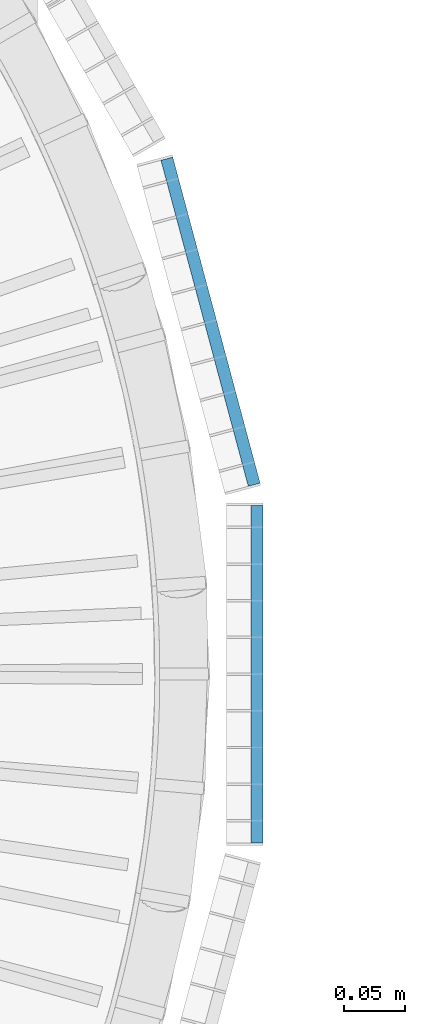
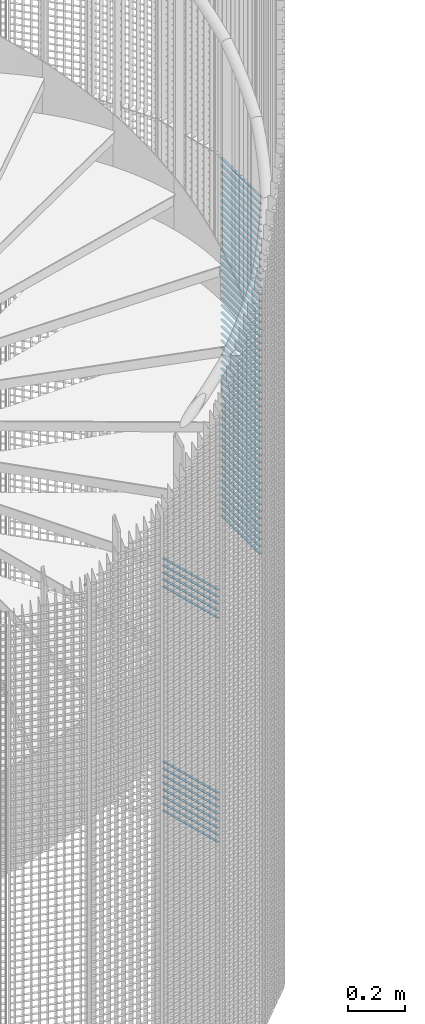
# One storey, part 300 of 1148: 65 beams, 2 elements without a shape of their own.
"""IFC2X3 building model written with IfcOpenShell, lengths in millimetres."""

from ifc_helpers import new_model, si_unit, frame, origin_with_axes, origin_2d_with_axis, place, context, subcontext, project, spatial, rectangle, extrude, material, type_object, element, aggregate, save


model = new_model("IFC2X3")

# Units and contexts
model_context = context("Model", 3, precision=1e-05, world=origin_with_axes())
body_context = subcontext(model_context, "Body", "Model", "MODEL_VIEW")
ifc_project = project(units=[si_unit("LENGTHUNIT", "METRE", prefix="MILLI"), si_unit("AREAUNIT", "SQUARE_METRE"), si_unit("VOLUMEUNIT", "CUBIC_METRE"), si_unit("MASSUNIT", "GRAM", prefix="KILO"), si_unit("TIMEUNIT", "SECOND"), si_unit("PLANEANGLEUNIT", "RADIAN"), si_unit("SOLIDANGLEUNIT", "STERADIAN"), si_unit("THERMODYNAMICTEMPERATUREUNIT", "DEGREE_CELSIUS"), si_unit("LUMINOUSINTENSITYUNIT", "LUMEN")], contexts=[model_context])

# Site, building, storey
site_placement = place(None, origin_with_axes())
site = spatial("IfcSite", under=ifc_project, at=site_placement, Name="Undefined", CompositionType="ELEMENT")
building_placement = place(site_placement, origin_with_axes())
building = spatial("IfcBuilding", under=site, at=building_placement, Name="Undefined", CompositionType="ELEMENT")
storey_placement = place(building_placement, origin_with_axes())
storey = spatial("IfcBuildingStorey", under=building, at=storey_placement, Name="Undefined", CompositionType="ELEMENT", Elevation=0.0)

# Assembly, beams
assembly_1_placement = place(storey_placement, origin_with_axes())
assembly_1 = element("IfcElementAssembly", 1, at=assembly_1_placement, inside=storey, Name="BORDURE", AssemblyPlace="NOTDEFINED", PredefinedType="NOTDEFINED")
ifc_material = material(Name="STEEL/S235JR")
beam_type = type_object("IfcBeamType", Name="PL2*10", PredefinedType="NOTDEFINED")
beam_1_placement = place(assembly_1_placement, frame((1111.25508286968, 154.895926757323, 989.999999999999), z_axis=(0.965925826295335, 0.258819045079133, 0.0), x_axis=(-0.258819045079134, 0.965925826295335, 0.0)))
beam_1 = element("IfcBeam", 2, at=beam_1_placement, type_object=beam_type, material=ifc_material, Name="ENTRETOISE", context=body_context, shape_type="SweptSolid", body=[
    extrude(rectangle(XDim=2.0, YDim=10.0, at=origin_2d_with_axis()), frame((275.999999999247, 9.09494701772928e-13, 1.53210777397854e-14), z_axis=(-1.0, 0.0, 0.0), x_axis=(0.0, -1.0, 0.0)), (0.0, 0.0, 1.0), 276.0),
])
beam_2_placement = place(assembly_1_placement, frame((1111.25508286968, 154.895926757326, 239.999999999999), z_axis=(0.965925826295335, 0.258819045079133, 0.0), x_axis=(-0.258819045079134, 0.965925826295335, 0.0)))
beam_2 = element("IfcBeam", 3, at=beam_2_placement, type_object=beam_type, material=ifc_material, Name="ENTRETOISE", context=body_context, shape_type="SweptSolid", body=[
    extrude(rectangle(XDim=2.0, YDim=10.0, at=origin_2d_with_axis()), frame((275.999999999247, 9.09494701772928e-13, 1.53210777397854e-14), z_axis=(-1.0, 0.0, 0.0), x_axis=(0.0, -1.0, 0.0)), (0.0, 0.0, 1.0), 276.0),
])
beam_3_placement = place(assembly_1_placement, frame((1111.25508286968, 154.895926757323, 1020.0), z_axis=(0.965925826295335, 0.258819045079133, 0.0), x_axis=(-0.258819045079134, 0.965925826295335, 0.0)))
beam_3 = element("IfcBeam", 4, at=beam_3_placement, type_object=beam_type, material=ifc_material, Name="ENTRETOISE", context=body_context, shape_type="SweptSolid", body=[
    extrude(rectangle(XDim=2.0, YDim=10.0, at=origin_2d_with_axis()), frame((275.999999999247, 9.09494701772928e-13, 1.53210777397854e-14), z_axis=(-1.0, 0.0, 0.0), x_axis=(0.0, -1.0, 0.0)), (0.0, 0.0, 1.0), 276.0),
])
beam_4_placement = place(assembly_1_placement, frame((1111.25508286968, 154.895926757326, 209.999999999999), z_axis=(0.965925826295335, 0.258819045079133, 0.0), x_axis=(-0.258819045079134, 0.965925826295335, 0.0)))
beam_4 = element("IfcBeam", 5, at=beam_4_placement, type_object=beam_type, material=ifc_material, Name="ENTRETOISE", context=body_context, shape_type="SweptSolid", body=[
    extrude(rectangle(XDim=2.0, YDim=10.0, at=origin_2d_with_axis()), frame((275.999999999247, 9.09494701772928e-13, 1.53210777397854e-14), z_axis=(-1.0, 0.0, 0.0), x_axis=(0.0, -1.0, 0.0)), (0.0, 0.0, 1.0), 276.0),
])
beam_5_placement = place(assembly_1_placement, frame((1111.25508286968, 154.895926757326, 179.999999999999), z_axis=(0.965925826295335, 0.258819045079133, 0.0), x_axis=(-0.258819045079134, 0.965925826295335, 0.0)))
beam_5 = element("IfcBeam", 6, at=beam_5_placement, type_object=beam_type, material=ifc_material, Name="ENTRETOISE", context=body_context, shape_type="SweptSolid", body=[
    extrude(rectangle(XDim=2.0, YDim=10.0, at=origin_2d_with_axis()), frame((275.999999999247, 9.09494701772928e-13, 1.53210777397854e-14), z_axis=(-1.0, 0.0, 0.0), x_axis=(0.0, -1.0, 0.0)), (0.0, 0.0, 1.0), 276.0),
])
beam_6_placement = place(assembly_1_placement, frame((1111.25508286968, 154.895926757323, 1050.0), z_axis=(0.965925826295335, 0.258819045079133, 0.0), x_axis=(-0.258819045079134, 0.965925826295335, 0.0)))
beam_6 = element("IfcBeam", 7, at=beam_6_placement, type_object=beam_type, material=ifc_material, Name="ENTRETOISE", context=body_context, shape_type="SweptSolid", body=[
    extrude(rectangle(XDim=2.0, YDim=10.0, at=origin_2d_with_axis()), frame((275.999999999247, 9.09494701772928e-13, 1.53210777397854e-14), z_axis=(-1.0, 0.0, 0.0), x_axis=(0.0, -1.0, 0.0)), (0.0, 0.0, 1.0), 276.0),
])
beam_7_placement = place(assembly_1_placement, frame((1111.25508286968, 154.895926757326, 149.999999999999), z_axis=(0.965925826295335, 0.258819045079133, 0.0), x_axis=(-0.258819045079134, 0.965925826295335, 0.0)))
beam_7 = element("IfcBeam", 8, at=beam_7_placement, type_object=beam_type, material=ifc_material, Name="ENTRETOISE", context=body_context, shape_type="SweptSolid", body=[
    extrude(rectangle(XDim=2.0, YDim=10.0, at=origin_2d_with_axis()), frame((275.999999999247, 9.09494701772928e-13, 1.53210777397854e-14), z_axis=(-1.0, 0.0, 0.0), x_axis=(0.0, -1.0, 0.0)), (0.0, 0.0, 1.0), 276.0),
])
beam_8_placement = place(assembly_1_placement, frame((1111.25508286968, 154.895926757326, 119.999999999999), z_axis=(0.965925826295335, 0.258819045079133, 0.0), x_axis=(-0.258819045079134, 0.965925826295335, 0.0)))
beam_8 = element("IfcBeam", 9, at=beam_8_placement, type_object=beam_type, material=ifc_material, Name="ENTRETOISE", context=body_context, shape_type="SweptSolid", body=[
    extrude(rectangle(XDim=2.0, YDim=10.0, at=origin_2d_with_axis()), frame((275.999999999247, 9.09494701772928e-13, 1.53210777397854e-14), z_axis=(-1.0, 0.0, 0.0), x_axis=(0.0, -1.0, 0.0)), (0.0, 0.0, 1.0), 276.0),
])
beam_9_placement = place(assembly_1_placement, frame((1111.25508286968, 154.895926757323, 1080.0), z_axis=(0.965925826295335, 0.258819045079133, 0.0), x_axis=(-0.258819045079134, 0.965925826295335, 0.0)))
beam_9 = element("IfcBeam", 10, at=beam_9_placement, type_object=beam_type, material=ifc_material, Name="ENTRETOISE", context=body_context, shape_type="SweptSolid", body=[
    extrude(rectangle(XDim=2.0, YDim=10.0, at=origin_2d_with_axis()), frame((275.999999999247, 9.09494701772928e-13, 1.53210777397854e-14), z_axis=(-1.0, 0.0, 0.0), x_axis=(0.0, -1.0, 0.0)), (0.0, 0.0, 1.0), 276.0),
])
beam_10_placement = place(assembly_1_placement, frame((1111.25508286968, 154.895926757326, 89.9999999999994), z_axis=(0.965925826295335, 0.258819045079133, 0.0), x_axis=(-0.258819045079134, 0.965925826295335, 0.0)))
beam_10 = element("IfcBeam", 11, at=beam_10_placement, type_object=beam_type, material=ifc_material, Name="ENTRETOISE", context=body_context, shape_type="SweptSolid", body=[
    extrude(rectangle(XDim=2.0, YDim=10.0, at=origin_2d_with_axis()), frame((275.999999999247, 9.09494701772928e-13, 1.53210777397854e-14), z_axis=(-1.0, 0.0, 0.0), x_axis=(0.0, -1.0, 0.0)), (0.0, 0.0, 1.0), 276.0),
])
beam_11_placement = place(assembly_1_placement, frame((1111.25508286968, 154.895926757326, 59.9999999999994), z_axis=(0.965925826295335, 0.258819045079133, 0.0), x_axis=(-0.258819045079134, 0.965925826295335, 0.0)))
beam_11 = element("IfcBeam", 12, at=beam_11_placement, type_object=beam_type, material=ifc_material, Name="ENTRETOISE", context=body_context, shape_type="SweptSolid", body=[
    extrude(rectangle(XDim=2.0, YDim=10.0, at=origin_2d_with_axis()), frame((275.999999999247, 9.09494701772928e-13, 1.53210777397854e-14), z_axis=(-1.0, 0.0, 0.0), x_axis=(0.0, -1.0, 0.0)), (0.0, 0.0, 1.0), 276.0),
])
beam_12_placement = place(assembly_1_placement, frame((1111.25508286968, 154.895926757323, 1110.0), z_axis=(0.965925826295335, 0.258819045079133, 0.0), x_axis=(-0.258819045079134, 0.965925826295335, 0.0)))
beam_12 = element("IfcBeam", 13, at=beam_12_placement, type_object=beam_type, material=ifc_material, Name="ENTRETOISE", context=body_context, shape_type="SweptSolid", body=[
    extrude(rectangle(XDim=2.0, YDim=10.0, at=origin_2d_with_axis()), frame((275.999999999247, 9.09494701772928e-13, 1.53210777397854e-14), z_axis=(-1.0, 0.0, 0.0), x_axis=(0.0, -1.0, 0.0)), (0.0, 0.0, 1.0), 276.0),
])
beam_13_placement = place(assembly_1_placement, frame((1111.25508286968, 154.895926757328, 29.9999999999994), z_axis=(0.965925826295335, 0.258819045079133, 0.0), x_axis=(-0.258819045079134, 0.965925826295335, 0.0)))
beam_13 = element("IfcBeam", 14, at=beam_13_placement, type_object=beam_type, material=ifc_material, Name="ENTRETOISE", context=body_context, shape_type="SweptSolid", body=[
    extrude(rectangle(XDim=2.0, YDim=10.0, at=origin_2d_with_axis()), frame((275.999999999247, 9.09494701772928e-13, 1.53210777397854e-14), z_axis=(-1.0, 0.0, 0.0), x_axis=(0.0, -1.0, 0.0)), (0.0, 0.0, 1.0), 276.0),
])
aggregate(assembly_1, [beam_1, beam_2, beam_3, beam_4, beam_5, beam_6, beam_7, beam_8, beam_9, beam_10, beam_11, beam_12, beam_13])

assembly_2_placement = place(storey_placement, origin_with_axes())
assembly_2 = element("IfcElementAssembly", 15, at=assembly_2_placement, inside=storey, Name="BORDURE", AssemblyPlace="NOTDEFINED", PredefinedType="NOTDEFINED")
beam_14_placement = place(assembly_2_placement, frame((1113.47999999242, -137.996003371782, 2970.0), z_axis=(1.0, 0.0, 0.0), x_axis=(0.0, 1.0, 0.0)))
beam_14 = element("IfcBeam", 16, at=beam_14_placement, type_object=beam_type, material=ifc_material, Name="ENTRETOISE", context=body_context, shape_type="SweptSolid", body=[
    extrude(rectangle(XDim=2.0, YDim=10.0, at=origin_2d_with_axis()), frame((275.999999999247, 9.09494701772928e-13, 1.53210777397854e-14), z_axis=(-1.0, 0.0, 0.0), x_axis=(0.0, -1.0, 0.0)), (0.0, 0.0, 1.0), 276.0),
])
beam_15_placement = place(assembly_2_placement, frame((1113.47999999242, -137.996003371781, 2940.0), z_axis=(1.0, 0.0, 0.0), x_axis=(0.0, 1.0, 0.0)))
beam_15 = element("IfcBeam", 17, at=beam_15_placement, type_object=beam_type, material=ifc_material, Name="ENTRETOISE", context=body_context, shape_type="SweptSolid", body=[
    extrude(rectangle(XDim=2.0, YDim=10.0, at=origin_2d_with_axis()), frame((275.999999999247, 9.09494701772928e-13, 1.53210777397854e-14), z_axis=(-1.0, 0.0, 0.0), x_axis=(0.0, -1.0, 0.0)), (0.0, 0.0, 1.0), 276.0),
])
beam_16_placement = place(assembly_2_placement, frame((1113.47999999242, -137.996003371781, 2910.0), z_axis=(1.0, 0.0, 0.0), x_axis=(0.0, 1.0, 0.0)))
beam_16 = element("IfcBeam", 18, at=beam_16_placement, type_object=beam_type, material=ifc_material, Name="ENTRETOISE", context=body_context, shape_type="SweptSolid", body=[
    extrude(rectangle(XDim=2.0, YDim=10.0, at=origin_2d_with_axis()), frame((275.999999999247, 9.09494701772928e-13, 1.53210777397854e-14), z_axis=(-1.0, 0.0, 0.0), x_axis=(0.0, -1.0, 0.0)), (0.0, 0.0, 1.0), 276.0),
])
beam_17_placement = place(assembly_2_placement, frame((1113.47999999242, -137.996003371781, 2880.0), z_axis=(1.0, 0.0, 0.0), x_axis=(0.0, 1.0, 0.0)))
beam_17 = element("IfcBeam", 19, at=beam_17_placement, type_object=beam_type, material=ifc_material, Name="ENTRETOISE", context=body_context, shape_type="SweptSolid", body=[
    extrude(rectangle(XDim=2.0, YDim=10.0, at=origin_2d_with_axis()), frame((275.999999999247, 9.09494701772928e-13, 1.53210777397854e-14), z_axis=(-1.0, 0.0, 0.0), x_axis=(0.0, -1.0, 0.0)), (0.0, 0.0, 1.0), 276.0),
])
beam_18_placement = place(assembly_2_placement, frame((1113.47999999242, -137.996003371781, 2850.0), z_axis=(1.0, 0.0, 0.0), x_axis=(0.0, 1.0, 0.0)))
beam_18 = element("IfcBeam", 20, at=beam_18_placement, type_object=beam_type, material=ifc_material, Name="ENTRETOISE", context=body_context, shape_type="SweptSolid", body=[
    extrude(rectangle(XDim=2.0, YDim=10.0, at=origin_2d_with_axis()), frame((275.999999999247, 9.09494701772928e-13, 1.53210777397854e-14), z_axis=(-1.0, 0.0, 0.0), x_axis=(0.0, -1.0, 0.0)), (0.0, 0.0, 1.0), 276.0),
])
beam_19_placement = place(assembly_2_placement, frame((1113.47999999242, -137.996003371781, 2820.0), z_axis=(1.0, 0.0, 0.0), x_axis=(0.0, 1.0, 0.0)))
beam_19 = element("IfcBeam", 21, at=beam_19_placement, type_object=beam_type, material=ifc_material, Name="ENTRETOISE", context=body_context, shape_type="SweptSolid", body=[
    extrude(rectangle(XDim=2.0, YDim=10.0, at=origin_2d_with_axis()), frame((275.999999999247, 9.09494701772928e-13, 1.53210777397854e-14), z_axis=(-1.0, 0.0, 0.0), x_axis=(0.0, -1.0, 0.0)), (0.0, 0.0, 1.0), 276.0),
])
beam_20_placement = place(assembly_2_placement, frame((1113.47999999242, -137.996003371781, 2790.0), z_axis=(1.0, 0.0, 0.0), x_axis=(0.0, 1.0, 0.0)))
beam_20 = element("IfcBeam", 22, at=beam_20_placement, type_object=beam_type, material=ifc_material, Name="ENTRETOISE", context=body_context, shape_type="SweptSolid", body=[
    extrude(rectangle(XDim=2.0, YDim=10.0, at=origin_2d_with_axis()), frame((275.999999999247, 9.09494701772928e-13, 1.53210777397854e-14), z_axis=(-1.0, 0.0, 0.0), x_axis=(0.0, -1.0, 0.0)), (0.0, 0.0, 1.0), 276.0),
])
beam_21_placement = place(assembly_2_placement, frame((1113.47999999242, -137.996003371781, 2760.0), z_axis=(1.0, 0.0, 0.0), x_axis=(0.0, 1.0, 0.0)))
beam_21 = element("IfcBeam", 23, at=beam_21_placement, type_object=beam_type, material=ifc_material, Name="ENTRETOISE", context=body_context, shape_type="SweptSolid", body=[
    extrude(rectangle(XDim=2.0, YDim=10.0, at=origin_2d_with_axis()), frame((275.999999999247, 9.09494701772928e-13, 1.53210777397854e-14), z_axis=(-1.0, 0.0, 0.0), x_axis=(0.0, -1.0, 0.0)), (0.0, 0.0, 1.0), 276.0),
])
beam_22_placement = place(assembly_2_placement, frame((1113.47999999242, -137.996003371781, 2730.0), z_axis=(1.0, 0.0, 0.0), x_axis=(0.0, 1.0, 0.0)))
beam_22 = element("IfcBeam", 24, at=beam_22_placement, type_object=beam_type, material=ifc_material, Name="ENTRETOISE", context=body_context, shape_type="SweptSolid", body=[
    extrude(rectangle(XDim=2.0, YDim=10.0, at=origin_2d_with_axis()), frame((275.999999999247, 9.09494701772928e-13, 1.53210777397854e-14), z_axis=(-1.0, 0.0, 0.0), x_axis=(0.0, -1.0, 0.0)), (0.0, 0.0, 1.0), 276.0),
])
beam_23_placement = place(assembly_2_placement, frame((1113.47999999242, -137.996003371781, 2700.0), z_axis=(1.0, 0.0, 0.0), x_axis=(0.0, 1.0, 0.0)))
beam_23 = element("IfcBeam", 25, at=beam_23_placement, type_object=beam_type, material=ifc_material, Name="ENTRETOISE", context=body_context, shape_type="SweptSolid", body=[
    extrude(rectangle(XDim=2.0, YDim=10.0, at=origin_2d_with_axis()), frame((275.999999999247, 9.09494701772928e-13, 1.53210777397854e-14), z_axis=(-1.0, 0.0, 0.0), x_axis=(0.0, -1.0, 0.0)), (0.0, 0.0, 1.0), 276.0),
])
beam_24_placement = place(assembly_2_placement, frame((1113.47999999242, -137.996003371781, 2670.0), z_axis=(1.0, 0.0, 0.0), x_axis=(0.0, 1.0, 0.0)))
beam_24 = element("IfcBeam", 26, at=beam_24_placement, type_object=beam_type, material=ifc_material, Name="ENTRETOISE", context=body_context, shape_type="SweptSolid", body=[
    extrude(rectangle(XDim=2.0, YDim=10.0, at=origin_2d_with_axis()), frame((275.999999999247, 9.09494701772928e-13, 1.53210777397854e-14), z_axis=(-1.0, 0.0, 0.0), x_axis=(0.0, -1.0, 0.0)), (0.0, 0.0, 1.0), 276.0),
])
beam_25_placement = place(assembly_2_placement, frame((1113.47999999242, -137.99600337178, 2640.0), z_axis=(1.0, 0.0, 0.0), x_axis=(0.0, 1.0, 0.0)))
beam_25 = element("IfcBeam", 27, at=beam_25_placement, type_object=beam_type, material=ifc_material, Name="ENTRETOISE", context=body_context, shape_type="SweptSolid", body=[
    extrude(rectangle(XDim=2.0, YDim=10.0, at=origin_2d_with_axis()), frame((275.999999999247, 9.09494701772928e-13, 1.53210777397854e-14), z_axis=(-1.0, 0.0, 0.0), x_axis=(0.0, -1.0, 0.0)), (0.0, 0.0, 1.0), 276.0),
])
beam_26_placement = place(assembly_2_placement, frame((1113.47999999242, -137.99600337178, 2610.0), z_axis=(1.0, 0.0, 0.0), x_axis=(0.0, 1.0, 0.0)))
beam_26 = element("IfcBeam", 28, at=beam_26_placement, type_object=beam_type, material=ifc_material, Name="ENTRETOISE", context=body_context, shape_type="SweptSolid", body=[
    extrude(rectangle(XDim=2.0, YDim=10.0, at=origin_2d_with_axis()), frame((275.999999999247, 9.09494701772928e-13, 1.53210777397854e-14), z_axis=(-1.0, 0.0, 0.0), x_axis=(0.0, -1.0, 0.0)), (0.0, 0.0, 1.0), 276.0),
])
beam_27_placement = place(assembly_2_placement, frame((1113.47999999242, -137.99600337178, 2580.0), z_axis=(1.0, 0.0, 0.0), x_axis=(0.0, 1.0, 0.0)))
beam_27 = element("IfcBeam", 29, at=beam_27_placement, type_object=beam_type, material=ifc_material, Name="ENTRETOISE", context=body_context, shape_type="SweptSolid", body=[
    extrude(rectangle(XDim=2.0, YDim=10.0, at=origin_2d_with_axis()), frame((275.999999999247, 9.09494701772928e-13, 1.53210777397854e-14), z_axis=(-1.0, 0.0, 0.0), x_axis=(0.0, -1.0, 0.0)), (0.0, 0.0, 1.0), 276.0),
])
beam_28_placement = place(assembly_2_placement, frame((1113.47999999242, -137.99600337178, 2550.0), z_axis=(1.0, 0.0, 0.0), x_axis=(0.0, 1.0, 0.0)))
beam_28 = element("IfcBeam", 30, at=beam_28_placement, type_object=beam_type, material=ifc_material, Name="ENTRETOISE", context=body_context, shape_type="SweptSolid", body=[
    extrude(rectangle(XDim=2.0, YDim=10.0, at=origin_2d_with_axis()), frame((275.999999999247, 9.09494701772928e-13, 1.53210777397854e-14), z_axis=(-1.0, 0.0, 0.0), x_axis=(0.0, -1.0, 0.0)), (0.0, 0.0, 1.0), 276.0),
])
beam_29_placement = place(assembly_2_placement, frame((1113.47999999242, -137.99600337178, 2520.0), z_axis=(1.0, 0.0, 0.0), x_axis=(0.0, 1.0, 0.0)))
beam_29 = element("IfcBeam", 31, at=beam_29_placement, type_object=beam_type, material=ifc_material, Name="ENTRETOISE", context=body_context, shape_type="SweptSolid", body=[
    extrude(rectangle(XDim=2.0, YDim=10.0, at=origin_2d_with_axis()), frame((275.999999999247, 9.09494701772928e-13, 1.53210777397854e-14), z_axis=(-1.0, 0.0, 0.0), x_axis=(0.0, -1.0, 0.0)), (0.0, 0.0, 1.0), 276.0),
])
beam_30_placement = place(assembly_2_placement, frame((1113.47999999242, -137.99600337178, 2490.0), z_axis=(1.0, 0.0, 0.0), x_axis=(0.0, 1.0, 0.0)))
beam_30 = element("IfcBeam", 32, at=beam_30_placement, type_object=beam_type, material=ifc_material, Name="ENTRETOISE", context=body_context, shape_type="SweptSolid", body=[
    extrude(rectangle(XDim=2.0, YDim=10.0, at=origin_2d_with_axis()), frame((275.999999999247, 9.09494701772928e-13, 1.53210777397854e-14), z_axis=(-1.0, 0.0, 0.0), x_axis=(0.0, -1.0, 0.0)), (0.0, 0.0, 1.0), 276.0),
])
beam_31_placement = place(assembly_2_placement, frame((1113.47999999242, -137.99600337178, 2460.0), z_axis=(1.0, 0.0, 0.0), x_axis=(0.0, 1.0, 0.0)))
beam_31 = element("IfcBeam", 33, at=beam_31_placement, type_object=beam_type, material=ifc_material, Name="ENTRETOISE", context=body_context, shape_type="SweptSolid", body=[
    extrude(rectangle(XDim=2.0, YDim=10.0, at=origin_2d_with_axis()), frame((275.999999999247, 9.09494701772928e-13, 1.53210777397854e-14), z_axis=(-1.0, 0.0, 0.0), x_axis=(0.0, -1.0, 0.0)), (0.0, 0.0, 1.0), 276.0),
])
beam_32_placement = place(assembly_2_placement, frame((1113.47999999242, -137.99600337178, 2430.0), z_axis=(1.0, 0.0, 0.0), x_axis=(0.0, 1.0, 0.0)))
beam_32 = element("IfcBeam", 34, at=beam_32_placement, type_object=beam_type, material=ifc_material, Name="ENTRETOISE", context=body_context, shape_type="SweptSolid", body=[
    extrude(rectangle(XDim=2.0, YDim=10.0, at=origin_2d_with_axis()), frame((275.999999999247, 9.09494701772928e-13, 1.53210777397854e-14), z_axis=(-1.0, 0.0, 0.0), x_axis=(0.0, -1.0, 0.0)), (0.0, 0.0, 1.0), 276.0),
])
beam_33_placement = place(assembly_2_placement, frame((1113.47999999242, -137.996003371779, 2400.0), z_axis=(1.0, 0.0, 0.0), x_axis=(0.0, 1.0, 0.0)))
beam_33 = element("IfcBeam", 35, at=beam_33_placement, type_object=beam_type, material=ifc_material, Name="ENTRETOISE", context=body_context, shape_type="SweptSolid", body=[
    extrude(rectangle(XDim=2.0, YDim=10.0, at=origin_2d_with_axis()), frame((275.999999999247, 9.09494701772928e-13, 1.53210777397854e-14), z_axis=(-1.0, 0.0, 0.0), x_axis=(0.0, -1.0, 0.0)), (0.0, 0.0, 1.0), 276.0),
])
beam_34_placement = place(assembly_2_placement, frame((1113.47999999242, -137.996003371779, 2370.0), z_axis=(1.0, 0.0, 0.0), x_axis=(0.0, 1.0, 0.0)))
beam_34 = element("IfcBeam", 36, at=beam_34_placement, type_object=beam_type, material=ifc_material, Name="ENTRETOISE", context=body_context, shape_type="SweptSolid", body=[
    extrude(rectangle(XDim=2.0, YDim=10.0, at=origin_2d_with_axis()), frame((275.999999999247, 9.09494701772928e-13, 1.53210777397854e-14), z_axis=(-1.0, 0.0, 0.0), x_axis=(0.0, -1.0, 0.0)), (0.0, 0.0, 1.0), 276.0),
])
beam_35_placement = place(assembly_2_placement, frame((1113.47999999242, -137.996003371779, 2340.0), z_axis=(1.0, 0.0, 0.0), x_axis=(0.0, 1.0, 0.0)))
beam_35 = element("IfcBeam", 37, at=beam_35_placement, type_object=beam_type, material=ifc_material, Name="ENTRETOISE", context=body_context, shape_type="SweptSolid", body=[
    extrude(rectangle(XDim=2.0, YDim=10.0, at=origin_2d_with_axis()), frame((275.999999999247, 9.09494701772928e-13, 1.53210777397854e-14), z_axis=(-1.0, 0.0, 0.0), x_axis=(0.0, -1.0, 0.0)), (0.0, 0.0, 1.0), 276.0),
])
beam_36_placement = place(assembly_2_placement, frame((1113.47999999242, -137.996003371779, 2310.0), z_axis=(1.0, 0.0, 0.0), x_axis=(0.0, 1.0, 0.0)))
beam_36 = element("IfcBeam", 38, at=beam_36_placement, type_object=beam_type, material=ifc_material, Name="ENTRETOISE", context=body_context, shape_type="SweptSolid", body=[
    extrude(rectangle(XDim=2.0, YDim=10.0, at=origin_2d_with_axis()), frame((275.999999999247, 9.09494701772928e-13, 1.53210777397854e-14), z_axis=(-1.0, 0.0, 0.0), x_axis=(0.0, -1.0, 0.0)), (0.0, 0.0, 1.0), 276.0),
])
beam_37_placement = place(assembly_2_placement, frame((1113.47999999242, -137.996003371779, 2280.0), z_axis=(1.0, 0.0, 0.0), x_axis=(0.0, 1.0, 0.0)))
beam_37 = element("IfcBeam", 39, at=beam_37_placement, type_object=beam_type, material=ifc_material, Name="ENTRETOISE", context=body_context, shape_type="SweptSolid", body=[
    extrude(rectangle(XDim=2.0, YDim=10.0, at=origin_2d_with_axis()), frame((275.999999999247, 9.09494701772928e-13, 1.53210777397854e-14), z_axis=(-1.0, 0.0, 0.0), x_axis=(0.0, -1.0, 0.0)), (0.0, 0.0, 1.0), 276.0),
])
beam_38_placement = place(assembly_2_placement, frame((1113.47999999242, -137.996003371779, 2250.0), z_axis=(1.0, 0.0, 0.0), x_axis=(0.0, 1.0, 0.0)))
beam_38 = element("IfcBeam", 40, at=beam_38_placement, type_object=beam_type, material=ifc_material, Name="ENTRETOISE", context=body_context, shape_type="SweptSolid", body=[
    extrude(rectangle(XDim=2.0, YDim=10.0, at=origin_2d_with_axis()), frame((275.999999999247, 9.09494701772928e-13, 1.53210777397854e-14), z_axis=(-1.0, 0.0, 0.0), x_axis=(0.0, -1.0, 0.0)), (0.0, 0.0, 1.0), 276.0),
])
beam_39_placement = place(assembly_2_placement, frame((1113.47999999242, -137.996003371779, 2220.0), z_axis=(1.0, 0.0, 0.0), x_axis=(0.0, 1.0, 0.0)))
beam_39 = element("IfcBeam", 41, at=beam_39_placement, type_object=beam_type, material=ifc_material, Name="ENTRETOISE", context=body_context, shape_type="SweptSolid", body=[
    extrude(rectangle(XDim=2.0, YDim=10.0, at=origin_2d_with_axis()), frame((275.999999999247, 9.09494701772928e-13, 1.53210777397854e-14), z_axis=(-1.0, 0.0, 0.0), x_axis=(0.0, -1.0, 0.0)), (0.0, 0.0, 1.0), 276.0),
])
beam_40_placement = place(assembly_2_placement, frame((1113.47999999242, -137.996003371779, 2190.0), z_axis=(1.0, 0.0, 0.0), x_axis=(0.0, 1.0, 0.0)))
beam_40 = element("IfcBeam", 42, at=beam_40_placement, type_object=beam_type, material=ifc_material, Name="ENTRETOISE", context=body_context, shape_type="SweptSolid", body=[
    extrude(rectangle(XDim=2.0, YDim=10.0, at=origin_2d_with_axis()), frame((275.999999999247, 9.09494701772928e-13, 1.53210777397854e-14), z_axis=(-1.0, 0.0, 0.0), x_axis=(0.0, -1.0, 0.0)), (0.0, 0.0, 1.0), 276.0),
])
beam_41_placement = place(assembly_2_placement, frame((1113.47999999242, -137.996003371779, 2160.0), z_axis=(1.0, 0.0, 0.0), x_axis=(0.0, 1.0, 0.0)))
beam_41 = element("IfcBeam", 43, at=beam_41_placement, type_object=beam_type, material=ifc_material, Name="ENTRETOISE", context=body_context, shape_type="SweptSolid", body=[
    extrude(rectangle(XDim=2.0, YDim=10.0, at=origin_2d_with_axis()), frame((275.999999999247, 9.09494701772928e-13, 1.53210777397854e-14), z_axis=(-1.0, 0.0, 0.0), x_axis=(0.0, -1.0, 0.0)), (0.0, 0.0, 1.0), 276.0),
])
beam_42_placement = place(assembly_2_placement, frame((1113.47999999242, -137.996003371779, 2130.0), z_axis=(1.0, 0.0, 0.0), x_axis=(0.0, 1.0, 0.0)))
beam_42 = element("IfcBeam", 44, at=beam_42_placement, type_object=beam_type, material=ifc_material, Name="ENTRETOISE", context=body_context, shape_type="SweptSolid", body=[
    extrude(rectangle(XDim=2.0, YDim=10.0, at=origin_2d_with_axis()), frame((275.999999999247, 9.09494701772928e-13, 1.53210777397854e-14), z_axis=(-1.0, 0.0, 0.0), x_axis=(0.0, -1.0, 0.0)), (0.0, 0.0, 1.0), 276.0),
])
beam_43_placement = place(assembly_2_placement, frame((1113.47999999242, -137.996003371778, 2100.0), z_axis=(1.0, 0.0, 0.0), x_axis=(0.0, 1.0, 0.0)))
beam_43 = element("IfcBeam", 45, at=beam_43_placement, type_object=beam_type, material=ifc_material, Name="ENTRETOISE", context=body_context, shape_type="SweptSolid", body=[
    extrude(rectangle(XDim=2.0, YDim=10.0, at=origin_2d_with_axis()), frame((275.999999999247, 9.09494701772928e-13, 1.53210777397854e-14), z_axis=(-1.0, 0.0, 0.0), x_axis=(0.0, -1.0, 0.0)), (0.0, 0.0, 1.0), 276.0),
])
beam_44_placement = place(assembly_2_placement, frame((1113.47999999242, -137.996003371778, 2070.0), z_axis=(1.0, 0.0, 0.0), x_axis=(0.0, 1.0, 0.0)))
beam_44 = element("IfcBeam", 46, at=beam_44_placement, type_object=beam_type, material=ifc_material, Name="ENTRETOISE", context=body_context, shape_type="SweptSolid", body=[
    extrude(rectangle(XDim=2.0, YDim=10.0, at=origin_2d_with_axis()), frame((275.999999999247, 9.09494701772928e-13, 1.53210777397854e-14), z_axis=(-1.0, 0.0, 0.0), x_axis=(0.0, -1.0, 0.0)), (0.0, 0.0, 1.0), 276.0),
])
beam_45_placement = place(assembly_2_placement, frame((1113.47999999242, -137.996003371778, 2040.0), z_axis=(1.0, 0.0, 0.0), x_axis=(0.0, 1.0, 0.0)))
beam_45 = element("IfcBeam", 47, at=beam_45_placement, type_object=beam_type, material=ifc_material, Name="ENTRETOISE", context=body_context, shape_type="SweptSolid", body=[
    extrude(rectangle(XDim=2.0, YDim=10.0, at=origin_2d_with_axis()), frame((275.999999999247, 9.09494701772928e-13, 1.53210777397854e-14), z_axis=(-1.0, 0.0, 0.0), x_axis=(0.0, -1.0, 0.0)), (0.0, 0.0, 1.0), 276.0),
])
beam_46_placement = place(assembly_2_placement, frame((1113.47999999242, -137.996003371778, 2010.0), z_axis=(1.0, 0.0, 0.0), x_axis=(0.0, 1.0, 0.0)))
beam_46 = element("IfcBeam", 48, at=beam_46_placement, type_object=beam_type, material=ifc_material, Name="ENTRETOISE", context=body_context, shape_type="SweptSolid", body=[
    extrude(rectangle(XDim=2.0, YDim=10.0, at=origin_2d_with_axis()), frame((275.999999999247, 9.09494701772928e-13, 1.53210777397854e-14), z_axis=(-1.0, 0.0, 0.0), x_axis=(0.0, -1.0, 0.0)), (0.0, 0.0, 1.0), 276.0),
])
beam_47_placement = place(assembly_2_placement, frame((1113.47999999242, -137.996003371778, 1980.0), z_axis=(1.0, 0.0, 0.0), x_axis=(0.0, 1.0, 0.0)))
beam_47 = element("IfcBeam", 49, at=beam_47_placement, type_object=beam_type, material=ifc_material, Name="ENTRETOISE", context=body_context, shape_type="SweptSolid", body=[
    extrude(rectangle(XDim=2.0, YDim=10.0, at=origin_2d_with_axis()), frame((275.999999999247, 9.09494701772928e-13, 1.53210777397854e-14), z_axis=(-1.0, 0.0, 0.0), x_axis=(0.0, -1.0, 0.0)), (0.0, 0.0, 1.0), 276.0),
])
beam_48_placement = place(assembly_2_placement, frame((1113.47999999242, -137.996003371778, 1950.0), z_axis=(1.0, 0.0, 0.0), x_axis=(0.0, 1.0, 0.0)))
beam_48 = element("IfcBeam", 50, at=beam_48_placement, type_object=beam_type, material=ifc_material, Name="ENTRETOISE", context=body_context, shape_type="SweptSolid", body=[
    extrude(rectangle(XDim=2.0, YDim=10.0, at=origin_2d_with_axis()), frame((275.999999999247, 9.09494701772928e-13, 1.53210777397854e-14), z_axis=(-1.0, 0.0, 0.0), x_axis=(0.0, -1.0, 0.0)), (0.0, 0.0, 1.0), 276.0),
])
beam_49_placement = place(assembly_2_placement, frame((1113.47999999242, -137.996003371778, 1920.0), z_axis=(1.0, 0.0, 0.0), x_axis=(0.0, 1.0, 0.0)))
beam_49 = element("IfcBeam", 51, at=beam_49_placement, type_object=beam_type, material=ifc_material, Name="ENTRETOISE", context=body_context, shape_type="SweptSolid", body=[
    extrude(rectangle(XDim=2.0, YDim=10.0, at=origin_2d_with_axis()), frame((275.999999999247, 9.09494701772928e-13, 1.53210777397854e-14), z_axis=(-1.0, 0.0, 0.0), x_axis=(0.0, -1.0, 0.0)), (0.0, 0.0, 1.0), 276.0),
])
beam_50_placement = place(assembly_2_placement, frame((1113.47999999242, -137.996003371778, 1890.0), z_axis=(1.0, 0.0, 0.0), x_axis=(0.0, 1.0, 0.0)))
beam_50 = element("IfcBeam", 52, at=beam_50_placement, type_object=beam_type, material=ifc_material, Name="ENTRETOISE", context=body_context, shape_type="SweptSolid", body=[
    extrude(rectangle(XDim=2.0, YDim=10.0, at=origin_2d_with_axis()), frame((275.999999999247, 9.09494701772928e-13, 1.53210777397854e-14), z_axis=(-1.0, 0.0, 0.0), x_axis=(0.0, -1.0, 0.0)), (0.0, 0.0, 1.0), 276.0),
])
beam_51_placement = place(assembly_2_placement, frame((1113.47999999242, -137.996003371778, 1860.0), z_axis=(1.0, 0.0, 0.0), x_axis=(0.0, 1.0, 0.0)))
beam_51 = element("IfcBeam", 53, at=beam_51_placement, type_object=beam_type, material=ifc_material, Name="ENTRETOISE", context=body_context, shape_type="SweptSolid", body=[
    extrude(rectangle(XDim=2.0, YDim=10.0, at=origin_2d_with_axis()), frame((275.999999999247, 9.09494701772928e-13, 1.53210777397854e-14), z_axis=(-1.0, 0.0, 0.0), x_axis=(0.0, -1.0, 0.0)), (0.0, 0.0, 1.0), 276.0),
])
beam_52_placement = place(assembly_2_placement, frame((1113.47999999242, -137.996003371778, 1830.0), z_axis=(1.0, 0.0, 0.0), x_axis=(0.0, 1.0, 0.0)))
beam_52 = element("IfcBeam", 54, at=beam_52_placement, type_object=beam_type, material=ifc_material, Name="ENTRETOISE", context=body_context, shape_type="SweptSolid", body=[
    extrude(rectangle(XDim=2.0, YDim=10.0, at=origin_2d_with_axis()), frame((275.999999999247, 9.09494701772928e-13, 1.53210777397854e-14), z_axis=(-1.0, 0.0, 0.0), x_axis=(0.0, -1.0, 0.0)), (0.0, 0.0, 1.0), 276.0),
])
beam_53_placement = place(assembly_2_placement, frame((1113.47999999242, -137.996003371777, 1800.0), z_axis=(1.0, 0.0, 0.0), x_axis=(0.0, 1.0, 0.0)))
beam_53 = element("IfcBeam", 55, at=beam_53_placement, type_object=beam_type, material=ifc_material, Name="ENTRETOISE", context=body_context, shape_type="SweptSolid", body=[
    extrude(rectangle(XDim=2.0, YDim=10.0, at=origin_2d_with_axis()), frame((275.999999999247, 9.09494701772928e-13, 1.53210777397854e-14), z_axis=(-1.0, 0.0, 0.0), x_axis=(0.0, -1.0, 0.0)), (0.0, 0.0, 1.0), 276.0),
])
beam_54_placement = place(assembly_2_placement, frame((1113.47999999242, -137.996003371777, 1770.0), z_axis=(1.0, 0.0, 0.0), x_axis=(0.0, 1.0, 0.0)))
beam_54 = element("IfcBeam", 56, at=beam_54_placement, type_object=beam_type, material=ifc_material, Name="ENTRETOISE", context=body_context, shape_type="SweptSolid", body=[
    extrude(rectangle(XDim=2.0, YDim=10.0, at=origin_2d_with_axis()), frame((275.999999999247, 9.09494701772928e-13, 1.53210777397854e-14), z_axis=(-1.0, 0.0, 0.0), x_axis=(0.0, -1.0, 0.0)), (0.0, 0.0, 1.0), 276.0),
])
beam_55_placement = place(assembly_2_placement, frame((1113.47999999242, -137.996003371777, 1740.0), z_axis=(1.0, 0.0, 0.0), x_axis=(0.0, 1.0, 0.0)))
beam_55 = element("IfcBeam", 57, at=beam_55_placement, type_object=beam_type, material=ifc_material, Name="ENTRETOISE", context=body_context, shape_type="SweptSolid", body=[
    extrude(rectangle(XDim=2.0, YDim=10.0, at=origin_2d_with_axis()), frame((275.999999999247, 9.09494701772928e-13, 1.53210777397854e-14), z_axis=(-1.0, 0.0, 0.0), x_axis=(0.0, -1.0, 0.0)), (0.0, 0.0, 1.0), 276.0),
])
beam_56_placement = place(assembly_2_placement, frame((1113.47999999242, -137.996003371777, 1710.0), z_axis=(1.0, 0.0, 0.0), x_axis=(0.0, 1.0, 0.0)))
beam_56 = element("IfcBeam", 58, at=beam_56_placement, type_object=beam_type, material=ifc_material, Name="ENTRETOISE", context=body_context, shape_type="SweptSolid", body=[
    extrude(rectangle(XDim=2.0, YDim=10.0, at=origin_2d_with_axis()), frame((275.999999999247, 9.09494701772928e-13, 1.53210777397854e-14), z_axis=(-1.0, 0.0, 0.0), x_axis=(0.0, -1.0, 0.0)), (0.0, 0.0, 1.0), 276.0),
])
beam_57_placement = place(assembly_2_placement, frame((1113.47999999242, -137.996003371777, 1680.0), z_axis=(1.0, 0.0, 0.0), x_axis=(0.0, 1.0, 0.0)))
beam_57 = element("IfcBeam", 59, at=beam_57_placement, type_object=beam_type, material=ifc_material, Name="ENTRETOISE", context=body_context, shape_type="SweptSolid", body=[
    extrude(rectangle(XDim=2.0, YDim=10.0, at=origin_2d_with_axis()), frame((275.999999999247, 9.09494701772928e-13, 1.53210777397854e-14), z_axis=(-1.0, 0.0, 0.0), x_axis=(0.0, -1.0, 0.0)), (0.0, 0.0, 1.0), 276.0),
])
beam_58_placement = place(assembly_2_placement, frame((1113.47999999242, -137.996003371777, 1650.0), z_axis=(1.0, 0.0, 0.0), x_axis=(0.0, 1.0, 0.0)))
beam_58 = element("IfcBeam", 60, at=beam_58_placement, type_object=beam_type, material=ifc_material, Name="ENTRETOISE", context=body_context, shape_type="SweptSolid", body=[
    extrude(rectangle(XDim=2.0, YDim=10.0, at=origin_2d_with_axis()), frame((275.999999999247, 9.09494701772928e-13, 1.53210777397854e-14), z_axis=(-1.0, 0.0, 0.0), x_axis=(0.0, -1.0, 0.0)), (0.0, 0.0, 1.0), 276.0),
])
beam_59_placement = place(assembly_2_placement, frame((1113.47999999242, -137.996003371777, 1620.0), z_axis=(1.0, 0.0, 0.0), x_axis=(0.0, 1.0, 0.0)))
beam_59 = element("IfcBeam", 61, at=beam_59_placement, type_object=beam_type, material=ifc_material, Name="ENTRETOISE", context=body_context, shape_type="SweptSolid", body=[
    extrude(rectangle(XDim=2.0, YDim=10.0, at=origin_2d_with_axis()), frame((275.999999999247, 9.09494701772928e-13, 1.53210777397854e-14), z_axis=(-1.0, 0.0, 0.0), x_axis=(0.0, -1.0, 0.0)), (0.0, 0.0, 1.0), 276.0),
])
beam_60_placement = place(assembly_2_placement, frame((1113.47999999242, -137.996003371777, 1590.0), z_axis=(1.0, 0.0, 0.0), x_axis=(0.0, 1.0, 0.0)))
beam_60 = element("IfcBeam", 62, at=beam_60_placement, type_object=beam_type, material=ifc_material, Name="ENTRETOISE", context=body_context, shape_type="SweptSolid", body=[
    extrude(rectangle(XDim=2.0, YDim=10.0, at=origin_2d_with_axis()), frame((275.999999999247, 9.09494701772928e-13, 1.53210777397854e-14), z_axis=(-1.0, 0.0, 0.0), x_axis=(0.0, -1.0, 0.0)), (0.0, 0.0, 1.0), 276.0),
])
beam_61_placement = place(assembly_2_placement, frame((1113.47999999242, -137.996003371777, 1560.0), z_axis=(1.0, 0.0, 0.0), x_axis=(0.0, 1.0, 0.0)))
beam_61 = element("IfcBeam", 63, at=beam_61_placement, type_object=beam_type, material=ifc_material, Name="ENTRETOISE", context=body_context, shape_type="SweptSolid", body=[
    extrude(rectangle(XDim=2.0, YDim=10.0, at=origin_2d_with_axis()), frame((275.999999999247, 9.09494701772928e-13, 1.53210777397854e-14), z_axis=(-1.0, 0.0, 0.0), x_axis=(0.0, -1.0, 0.0)), (0.0, 0.0, 1.0), 276.0),
])
beam_62_placement = place(assembly_2_placement, frame((1113.47999999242, -137.996003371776, 1530.0), z_axis=(1.0, 0.0, 0.0), x_axis=(0.0, 1.0, 0.0)))
beam_62 = element("IfcBeam", 64, at=beam_62_placement, type_object=beam_type, material=ifc_material, Name="ENTRETOISE", context=body_context, shape_type="SweptSolid", body=[
    extrude(rectangle(XDim=2.0, YDim=10.0, at=origin_2d_with_axis()), frame((275.999999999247, 9.09494701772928e-13, 1.53210777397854e-14), z_axis=(-1.0, 0.0, 0.0), x_axis=(0.0, -1.0, 0.0)), (0.0, 0.0, 1.0), 276.0),
])
beam_63_placement = place(assembly_2_placement, frame((1113.47999999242, -137.996003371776, 1500.0), z_axis=(1.0, 0.0, 0.0), x_axis=(0.0, 1.0, 0.0)))
beam_63 = element("IfcBeam", 65, at=beam_63_placement, type_object=beam_type, material=ifc_material, Name="ENTRETOISE", context=body_context, shape_type="SweptSolid", body=[
    extrude(rectangle(XDim=2.0, YDim=10.0, at=origin_2d_with_axis()), frame((275.999999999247, 9.09494701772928e-13, 1.53210777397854e-14), z_axis=(-1.0, 0.0, 0.0), x_axis=(0.0, -1.0, 0.0)), (0.0, 0.0, 1.0), 276.0),
])
beam_64_placement = place(assembly_2_placement, frame((1113.47999999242, -137.996003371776, 1470.0), z_axis=(1.0, 0.0, 0.0), x_axis=(0.0, 1.0, 0.0)))
beam_64 = element("IfcBeam", 66, at=beam_64_placement, type_object=beam_type, material=ifc_material, Name="ENTRETOISE", context=body_context, shape_type="SweptSolid", body=[
    extrude(rectangle(XDim=2.0, YDim=10.0, at=origin_2d_with_axis()), frame((275.999999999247, 9.09494701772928e-13, 1.53210777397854e-14), z_axis=(-1.0, 0.0, 0.0), x_axis=(0.0, -1.0, 0.0)), (0.0, 0.0, 1.0), 276.0),
])
beam_65_placement = place(assembly_2_placement, frame((1113.47999999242, -137.996003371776, 1440.0), z_axis=(1.0, 0.0, 0.0), x_axis=(0.0, 1.0, 0.0)))
beam_65 = element("IfcBeam", 67, at=beam_65_placement, type_object=beam_type, material=ifc_material, Name="ENTRETOISE", context=body_context, shape_type="SweptSolid", body=[
    extrude(rectangle(XDim=2.0, YDim=10.0, at=origin_2d_with_axis()), frame((275.999999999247, 9.09494701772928e-13, 1.53210777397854e-14), z_axis=(-1.0, 0.0, 0.0), x_axis=(0.0, -1.0, 0.0)), (0.0, 0.0, 1.0), 276.0),
])
aggregate(assembly_2, [beam_14, beam_15, beam_16, beam_17, beam_18, beam_19, beam_20, beam_21, beam_22, beam_23, beam_24, beam_25, beam_26, beam_27, beam_28, beam_29, beam_30, beam_31, beam_32, beam_33, beam_34, beam_35, beam_36, beam_37, beam_38, beam_39, beam_40, beam_41, beam_42, beam_43, beam_44, beam_45, beam_46, beam_47, beam_48, beam_49, beam_50, beam_51, beam_52, beam_53, beam_54, beam_55, beam_56, beam_57, beam_58, beam_59, beam_60, beam_61, beam_62, beam_63, beam_64, beam_65])

save(model, "model.ifc")
